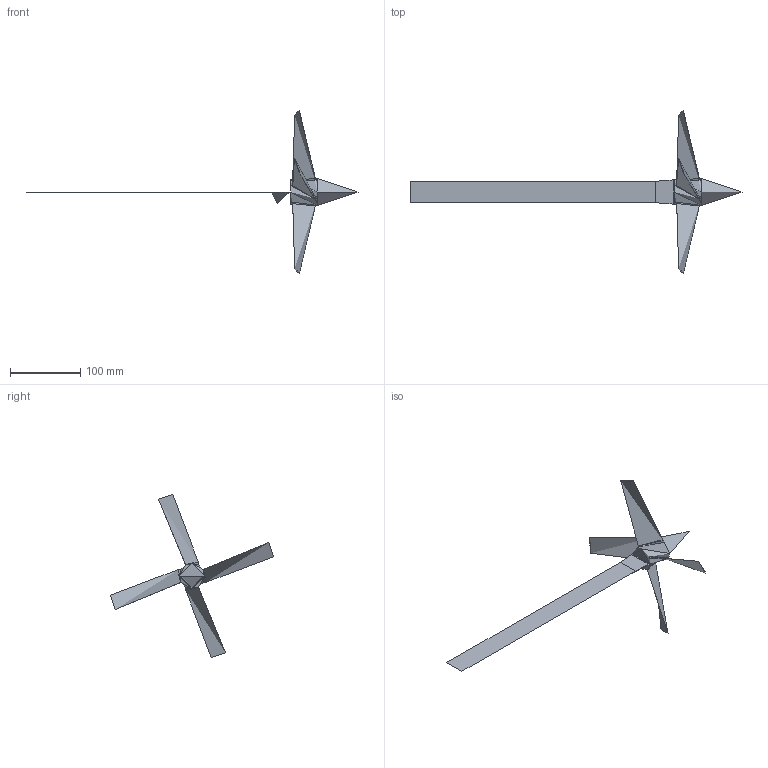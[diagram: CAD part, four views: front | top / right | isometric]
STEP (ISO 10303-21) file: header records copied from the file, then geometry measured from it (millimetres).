
FILE_DESCRIPTION(/* description */ (''),/* implementation_level */ '2;1');
FILE_NAME(/* name */ 'P1727_geometry',/* time_stamp */ '2015-10-07T12:37:53+02:00',/* author */ (''),/* organization */ (''),/* preprocessor_version */ 'ST-DEVELOPER v10',/* originating_system */ '',/* authorisation */ '');
FILE_SCHEMA (('CONFIG_CONTROL_DESIGN'));
Length unit declared in the file: millimetre
Products named in the file (1): 1
Bounding box: 473.18 x 232.3 x 232.3 mm (x, y, z)
Surface area: 88429.4 mm2 (no closed solid volume)
Topology: 0 solids, 1 shells, 58 faces, 181 edges, 123 vertices
Faces by surface type: bspline 56, plane 2
Entity records: 22012 total; most frequent: CARTESIAN_POINT 21097, ORIENTED_EDGE 274, EDGE_CURVE 138, VERTEX_POINT 87, B_SPLINE_CURVE_WITH_KNOTS 66, EDGE_LOOP 64, ADVANCED_FACE 58, FACE_OUTER_BOUND 58
